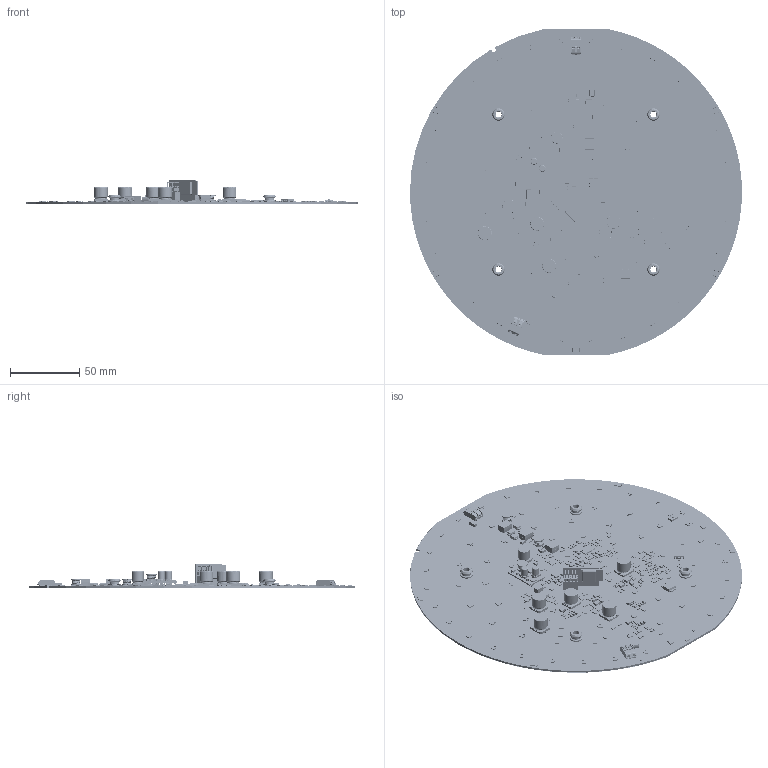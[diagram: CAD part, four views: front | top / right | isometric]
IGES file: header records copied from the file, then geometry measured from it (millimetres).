
Start section: SolidWorks IGES file using analytic representation for surfaces
Global section: file name: F:\Heren\32 Flat AC Wireless\Drawing\3D\2500 BL\FLAT-AC-Wireless BL-2500.IGS; native system: SolidWorks 2023; preprocessor: SolidWorks 2023; author: H.Yi; date: 230707.045044; units: millimetre
Bounding box: 240 x 235 x 17.6 mm (x, y, z)
Surface area: 111549.1 mm2 (no closed solid volume)
Topology: 0 solids, 0 shells, 14442 faces, 82423 edges, 82406 vertices
Faces by surface type: bspline 12240, revolution 2202
